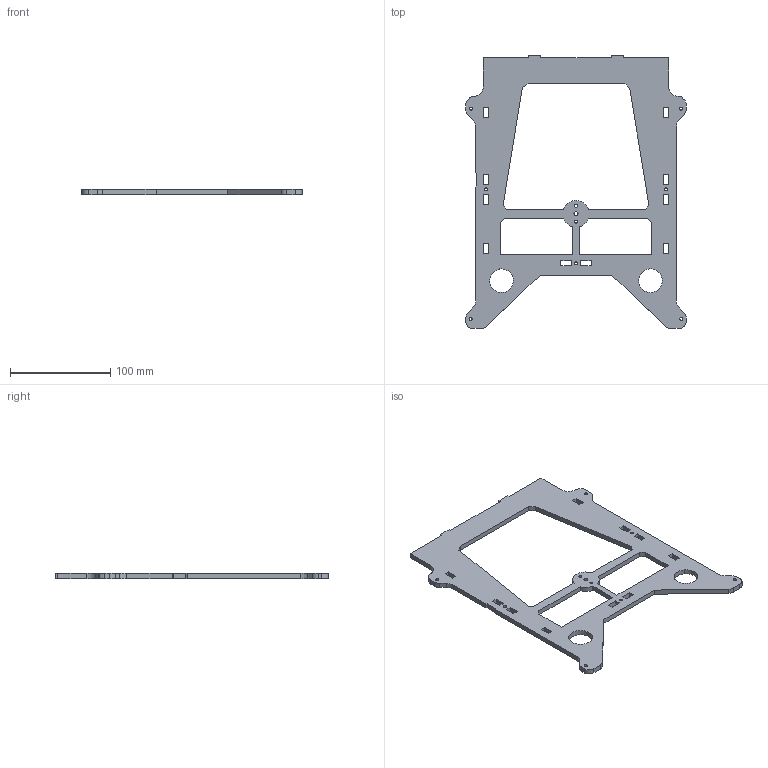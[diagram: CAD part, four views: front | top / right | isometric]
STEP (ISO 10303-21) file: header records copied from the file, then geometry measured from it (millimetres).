
FILE_DESCRIPTION(/* description */ (''),/* implementation_level */ '2;1');
FILE_NAME(/* name */ 'PLATAF~1',/* time_stamp */ '2019-04-01T21:17:34-03:00',/* author */ (''),/* organization */ (''),/* preprocessor_version */ 'ST-DEVELOPER v16.5',/* originating_system */ '',/* authorisation */ '');
FILE_SCHEMA (('AUTOMOTIVE_DESIGN'));
Length unit declared in the file: millimetre
Products named in the file (1): Document
Bounding box: 219.78 x 271.95 x 5 mm (x, y, z)
Volume: 126609.9 mm3; surface area: 63110.2 mm2
Topology: 1 solids, 1 shells, 140 faces, 414 edges, 276 vertices
Faces by surface type: bspline 98, plane 42
Entity records: 4457 total; most frequent: CARTESIAN_POINT 2148, ORIENTED_EDGE 828, EDGE_CURVE 414, VERTEX_POINT 276, EDGE_LOOP 190, ADVANCED_FACE 140, FACE_OUTER_BOUND 140, B_SPLINE_CURVE_WITH_KNOTS 120
